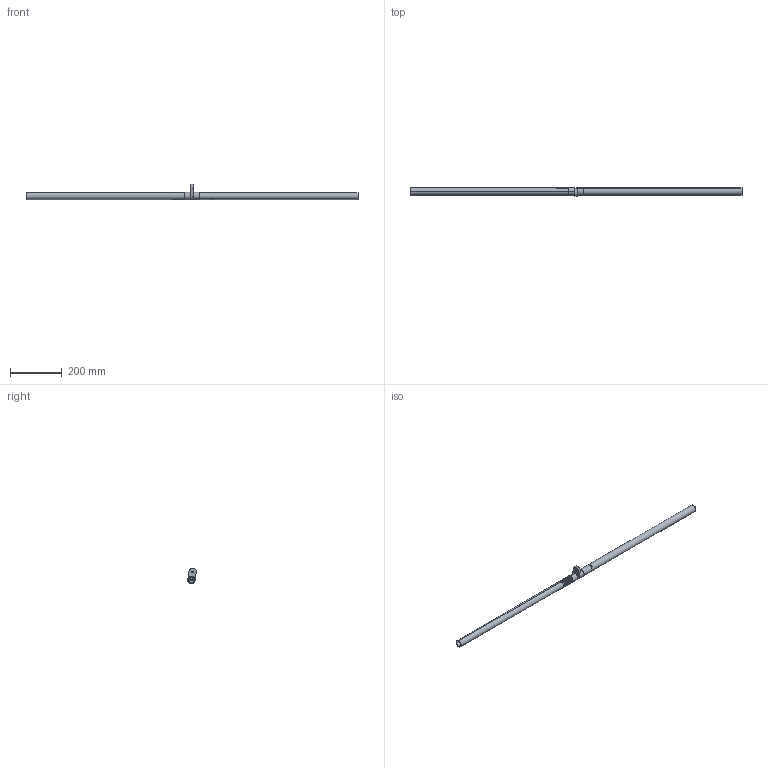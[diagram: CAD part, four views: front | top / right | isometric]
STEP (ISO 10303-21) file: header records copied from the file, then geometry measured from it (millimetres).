
FILE_DESCRIPTION (( 'STEP AP214' ), '1' );
FILE_NAME ('Threaded End Connector to Link Connector to Threaded End Connector Connection.STEP', '2013-08-19T17:16:04', ( 'ydmin' ), ( 'Microsoft' ), 'SwSTEP 2.0', 'SolidWorks 2013', '' );
FILE_SCHEMA (( 'AUTOMOTIVE_DESIGN' ));
Length unit declared in the file: inch
Products named in the file (8): Threaded End; DRP-002-0518-00; DRP-002-0525-00; Flat End; 91990A255 (1)_91990A255; DRP-002-0513-00_FLAT END WITH THREADED HOLE; 6.000 Inch Tube; Threaded End Connector to Link Connector to Threaded End Connector Connection
Assembly tree (8 placements, depth 3):
  Threaded End Connector to Link Connector to Threaded End Connector Connection
    Flat End
      6.000 Inch Tube
      DRP-002-0513-00_FLAT END WITH THREADED HOLE
      91990A255 (1)_91990A255
    DRP-002-0525-00
    Threaded End
      6.000 Inch Tube
      DRP-002-0518-00
Bounding box: 1279.14 x 32.91 x 60.02 mm (x, y, z)
Volume: 165015.1 mm3; surface area: 232639.9 mm2
Topology: 8 solids, 8 shells, 498 faces, 1231 edges, 749 vertices
Faces by surface type: cylinder 225, plane 132, cone 113, bspline 16, torus 10, sphere 2
Entity records: 25506 total; most frequent: CARTESIAN_POINT 10609, DIRECTION 2453, ORIENTED_EDGE 2434, EDGE_CURVE 1217, AXIS2_PLACEMENT_3D 895, VERTEX_POINT 741, LINE 663, VECTOR 663
